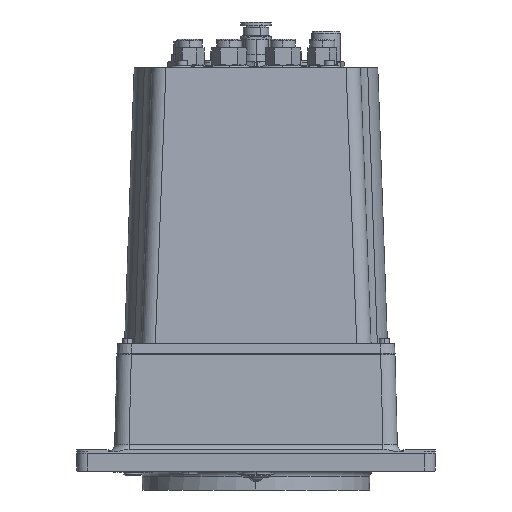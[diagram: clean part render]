
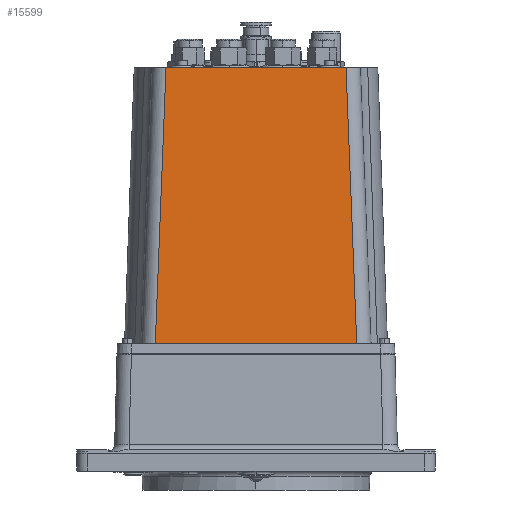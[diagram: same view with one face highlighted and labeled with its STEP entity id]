
A CAD part, left-side view. The second image highlights one B-rep face of the part: STEP entity #15599.
In plain terms, the highlighted planar face has unit normal (-0.999, 0, 0.035).
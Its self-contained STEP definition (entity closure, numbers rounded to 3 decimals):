
#1889 = EDGE_CURVE ( 'NONE', #38821, #28475, #17931, .T. ) ;
#4074 = CARTESIAN_POINT ( 'NONE',  ( -127.829, 56.208, 57.935 ) ) ;
#5362 = DIRECTION ( 'NONE',  ( 0., 1., 0. ) ) ;
#5907 = CARTESIAN_POINT ( 'NONE',  ( -127.998, -100., 53.105 ) ) ;
#7750 = FACE_OUTER_BOUND ( 'NONE', #26419, .T. ) ;
#8058 = ORIENTED_EDGE ( 'NONE', *, *, #1889, .T. ) ;
#8177 = VECTOR ( 'NONE', #8566, 1000. ) ;
#8566 = DIRECTION ( 'NONE',  ( 0.035, -0.039, 0.999 ) ) ;
#10007 = EDGE_CURVE ( 'NONE', #43971, #38821, #18925, .T. ) ;
#12895 = ORIENTED_EDGE ( 'NONE', *, *, #40636, .F. ) ;
#13992 = CARTESIAN_POINT ( 'NONE',  ( -122.415, 50.194, 213. ) ) ;
#15599 = ADVANCED_FACE ( 'NONE', ( #7750 ), #23134, .T. ) ;
#15848 = VECTOR ( 'NONE', #20983, 1000. ) ;
#17931 = LINE ( 'NONE', #47158, #15848 ) ;
#18925 = LINE ( 'NONE', #24940, #22999 ) ;
#19328 = DIRECTION ( 'NONE',  ( 0.035, 0., 0.999 ) ) ;
#19975 = CARTESIAN_POINT ( 'NONE',  ( -127.792, 56.167, 59. ) ) ;
#20983 = DIRECTION ( 'NONE',  ( 0., 1., 0. ) ) ;
#22999 = VECTOR ( 'NONE', #42473, 1000. ) ;
#23134 = PLANE ( 'NONE',  #45171 ) ;
#24940 = CARTESIAN_POINT ( 'NONE',  ( -127.792, -56.167, 59. ) ) ;
#25356 = ORIENTED_EDGE ( 'NONE', *, *, #37839, .F. ) ;
#26419 = EDGE_LOOP ( 'NONE', ( #38933, #8058, #12895, #25356 ) ) ;
#28475 = VERTEX_POINT ( 'NONE', #13992 ) ;
#31271 = CARTESIAN_POINT ( 'NONE',  ( -127.792, 0., 59. ) ) ;
#31394 = VECTOR ( 'NONE', #5362, 1000. ) ;
#31993 = CARTESIAN_POINT ( 'NONE',  ( -122.415, -50.194, 213. ) ) ;
#37465 = VERTEX_POINT ( 'NONE', #19975 ) ;
#37839 = EDGE_CURVE ( 'NONE', #43971, #37465, #45554, .T. ) ;
#38821 = VERTEX_POINT ( 'NONE', #31993 ) ;
#38933 = ORIENTED_EDGE ( 'NONE', *, *, #10007, .T. ) ;
#40636 = EDGE_CURVE ( 'NONE', #37465, #28475, #51385, .T. ) ;
#42473 = DIRECTION ( 'NONE',  ( 0.035, 0.039, 0.999 ) ) ;
#43971 = VERTEX_POINT ( 'NONE', #49236 ) ;
#44984 = DIRECTION ( 'NONE',  ( -0.999, 0., 0.035 ) ) ;
#45171 = AXIS2_PLACEMENT_3D ( 'NONE', #5907, #44984, #19328 ) ;
#45554 = LINE ( 'NONE', #31271, #31394 ) ;
#47158 = CARTESIAN_POINT ( 'NONE',  ( -122.415, -100., 213. ) ) ;
#49236 = CARTESIAN_POINT ( 'NONE',  ( -127.792, -56.167, 59. ) ) ;
#51385 = LINE ( 'NONE', #4074, #8177 ) ;
